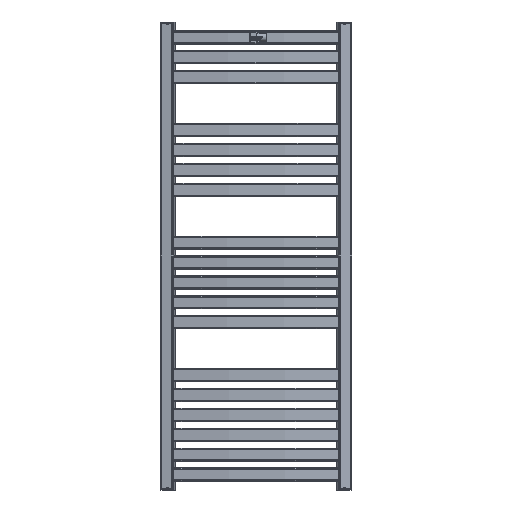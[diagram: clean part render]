
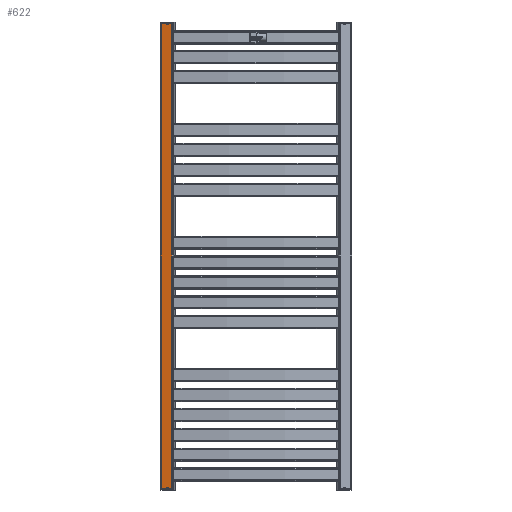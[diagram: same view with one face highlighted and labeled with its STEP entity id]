
A CAD part, front view. The second image highlights one B-rep face of the part: STEP entity #622.
In plain terms, the highlighted planar face has unit normal (-0.157, -0.988, 0) as drawn and (1, 0, 0) by its records, which use the part's own axes.
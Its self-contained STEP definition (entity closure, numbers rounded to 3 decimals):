
#622 = ADVANCED_FACE( '', ( #1302 ), #1303, .T. );
#1302 = FACE_OUTER_BOUND( '', #2052, .T. );
#1303 = PLANE( '', #2053 );
#2052 = EDGE_LOOP( '', ( #3849, #3850, #3851, #3852 ) );
#2053 = AXIS2_PLACEMENT_3D( '', #3853, #3854, #3855 );
#3849 = ORIENTED_EDGE( '', *, *, #4670, .T. );
#3850 = ORIENTED_EDGE( '', *, *, #4538, .T. );
#3851 = ORIENTED_EDGE( '', *, *, #5002, .F. );
#3852 = ORIENTED_EDGE( '', *, *, #4883, .T. );
#3853 = CARTESIAN_POINT( '', ( 15., 1056., -15. ) );
#3854 = DIRECTION( '', ( 1., 0., 0. ) );
#3855 = DIRECTION( '', ( 0., 0., -1. ) );
#4538 = EDGE_CURVE( '', #5534, #5538, #5540, .T. );
#4670 = EDGE_CURVE( '', #5743, #5534, #5744, .T. );
#4883 = EDGE_CURVE( '', #6048, #5743, #6049, .F. );
#5002 = EDGE_CURVE( '', #6048, #5538, #6195, .T. );
#5534 = VERTEX_POINT( '', #6882 );
#5538 = VERTEX_POINT( '', #6887 );
#5540 = LINE( '', #6889, #6890 );
#5743 = VERTEX_POINT( '', #7155 );
#5744 = LINE( '', #7156, #7157 );
#6048 = VERTEX_POINT( '', #7552 );
#6049 = LINE( '', #7553, #7554 );
#6195 = LINE( '', #7743, #7744 );
#6882 = CARTESIAN_POINT( '', ( 15., 1056., 12. ) );
#6887 = CARTESIAN_POINT( '', ( 15., 0., 12. ) );
#6889 = CARTESIAN_POINT( '', ( 15., 1056., 12. ) );
#6890 = VECTOR( '', #8165, 1000. );
#7155 = CARTESIAN_POINT( '', ( 15., 1056., -12. ) );
#7156 = CARTESIAN_POINT( '', ( 15., 1056., -15. ) );
#7157 = VECTOR( '', #8342, 1000. );
#7552 = CARTESIAN_POINT( '', ( 15., 0., -12. ) );
#7553 = CARTESIAN_POINT( '', ( 15., 1056., -12. ) );
#7554 = VECTOR( '', #8668, 1000. );
#7743 = CARTESIAN_POINT( '', ( 15., 0., -15. ) );
#7744 = VECTOR( '', #8802, 1000. );
#8165 = DIRECTION( '', ( 0., -1., 0. ) );
#8342 = DIRECTION( '', ( 0., 0., 1. ) );
#8668 = DIRECTION( '', ( 0., -1., 0. ) );
#8802 = DIRECTION( '', ( 0., 0., 1. ) );
